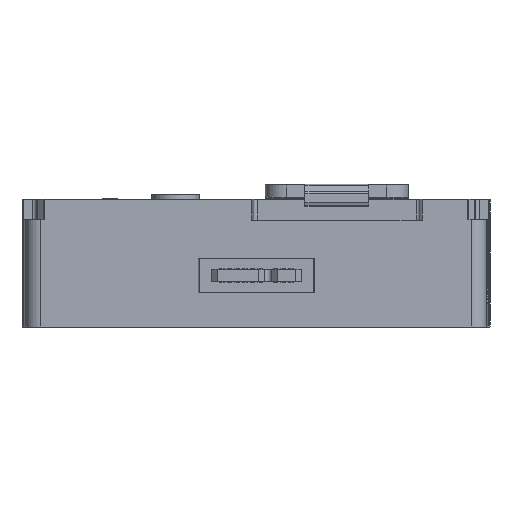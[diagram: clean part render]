
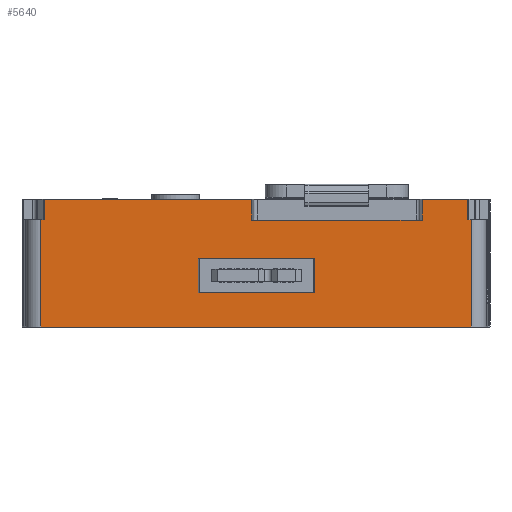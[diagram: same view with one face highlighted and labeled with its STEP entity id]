
A CAD part, left-side view. The second image highlights one B-rep face of the part: STEP entity #5640.
In plain terms, the highlighted planar face has unit normal (-1, 0, 0).
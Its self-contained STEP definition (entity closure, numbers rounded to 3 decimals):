
#1828=PLANE('',#13093);
#2944=B_SPLINE_CURVE_WITH_KNOTS('',3,(#16085,#16086,#16087,#16088,#16089,
#16090,#16091,#16092),.UNSPECIFIED.,.F.,.F.,(4,2,2,4),(0.,0.632,
0.97,1.),.UNSPECIFIED.);
#2965=B_SPLINE_CURVE_WITH_KNOTS('',3,(#16237,#16238,#16239,#16240,#16241,
#16242,#16243,#16244),.UNSPECIFIED.,.F.,.F.,(4,2,2,4),(0.,0.632,
0.97,1.),.UNSPECIFIED.);
#2969=B_SPLINE_CURVE_WITH_KNOTS('',3,(#16275,#16276,#16277,#16278,#16279,
#16280,#16281,#16282),.UNSPECIFIED.,.F.,.F.,(4,2,2,4),(0.,0.632,
0.97,1.),.UNSPECIFIED.);
#2970=B_SPLINE_CURVE_WITH_KNOTS('',3,(#16294,#16295,#16296,#16297),
 .UNSPECIFIED.,.F.,.F.,(4,4),(0.,1.),.UNSPECIFIED.);
#2971=B_SPLINE_CURVE_WITH_KNOTS('',3,(#16302,#16303,#16304,#16305),
 .UNSPECIFIED.,.F.,.F.,(4,4),(0.,1.),.UNSPECIFIED.);
#3613=LINE('',#16269,#4575);
#3614=LINE('',#16271,#4576);
#3615=LINE('',#16273,#4577);
#3616=LINE('',#16284,#4578);
#3617=LINE('',#16286,#4579);
#3618=LINE('',#16288,#4580);
#3619=LINE('',#16289,#4581);
#3620=LINE('',#16291,#4582);
#3621=LINE('',#16293,#4583);
#3622=LINE('',#16300,#4584);
#3623=LINE('',#16307,#4585);
#4575=VECTOR('',#13684,1.);
#4576=VECTOR('',#13685,1.);
#4577=VECTOR('',#13686,1.);
#4578=VECTOR('',#13687,1.);
#4579=VECTOR('',#13688,1.);
#4580=VECTOR('',#13689,1.);
#4581=VECTOR('',#13690,1.);
#4582=VECTOR('',#13691,1.);
#4583=VECTOR('',#13692,1.);
#4584=VECTOR('',#13693,1.);
#4585=VECTOR('',#13694,1.);
#5640=ADVANCED_FACE('',(#6320,#6321),#1828,.F.);
#6320=FACE_BOUND('',#6427,.T.);
#6321=FACE_BOUND('',#6428,.T.);
#6427=EDGE_LOOP('',(#7184,#7185,#7186,#7187,#7188,#7189,#7190,#7191,#7192,
#7193,#7194,#7195));
#6428=EDGE_LOOP('',(#7196,#7197,#7198,#7199));
#7184=ORIENTED_EDGE('',*,*,#11478,.F.);
#7185=ORIENTED_EDGE('',*,*,#11484,.T.);
#7186=ORIENTED_EDGE('',*,*,#11485,.T.);
#7187=ORIENTED_EDGE('',*,*,#11486,.T.);
#7188=ORIENTED_EDGE('',*,*,#11487,.T.);
#7189=ORIENTED_EDGE('',*,*,#11488,.T.);
#7190=ORIENTED_EDGE('',*,*,#11489,.T.);
#7191=ORIENTED_EDGE('',*,*,#11490,.T.);
#7192=ORIENTED_EDGE('',*,*,#11451,.F.);
#7193=ORIENTED_EDGE('',*,*,#11491,.F.);
#7194=ORIENTED_EDGE('',*,*,#11492,.F.);
#7195=ORIENTED_EDGE('',*,*,#11493,.T.);
#7196=ORIENTED_EDGE('',*,*,#11494,.F.);
#7197=ORIENTED_EDGE('',*,*,#11495,.F.);
#7198=ORIENTED_EDGE('',*,*,#11496,.T.);
#7199=ORIENTED_EDGE('',*,*,#11497,.T.);
#10372=VERTEX_POINT('',#16084);
#10373=VERTEX_POINT('',#16093);
#10399=VERTEX_POINT('',#16236);
#10400=VERTEX_POINT('',#16245);
#10405=VERTEX_POINT('',#16270);
#10406=VERTEX_POINT('',#16272);
#10407=VERTEX_POINT('',#16274);
#10408=VERTEX_POINT('',#16283);
#10409=VERTEX_POINT('',#16285);
#10410=VERTEX_POINT('',#16287);
#10411=VERTEX_POINT('',#16290);
#10412=VERTEX_POINT('',#16292);
#10413=VERTEX_POINT('',#16298);
#10414=VERTEX_POINT('',#16299);
#10415=VERTEX_POINT('',#16301);
#10416=VERTEX_POINT('',#16306);
#11451=EDGE_CURVE('',#10372,#10373,#2944,.T.);
#11478=EDGE_CURVE('',#10399,#10400,#2965,.T.);
#11484=EDGE_CURVE('',#10399,#10405,#3613,.T.);
#11485=EDGE_CURVE('',#10405,#10406,#3614,.T.);
#11486=EDGE_CURVE('',#10406,#10407,#3615,.T.);
#11487=EDGE_CURVE('',#10407,#10408,#2969,.T.);
#11488=EDGE_CURVE('',#10408,#10409,#3616,.T.);
#11489=EDGE_CURVE('',#10409,#10410,#3617,.T.);
#11490=EDGE_CURVE('',#10410,#10373,#3618,.T.);
#11491=EDGE_CURVE('',#10411,#10372,#3619,.T.);
#11492=EDGE_CURVE('',#10412,#10411,#3620,.T.);
#11493=EDGE_CURVE('',#10412,#10400,#3621,.T.);
#11494=EDGE_CURVE('',#10413,#10414,#2970,.T.);
#11495=EDGE_CURVE('',#10415,#10413,#3622,.T.);
#11496=EDGE_CURVE('',#10415,#10416,#2971,.T.);
#11497=EDGE_CURVE('',#10416,#10414,#3623,.T.);
#13093=AXIS2_PLACEMENT_3D('',#16308,#13695,#13696);
#13684=DIRECTION('',(0.,0.,-1.));
#13685=DIRECTION('',(0.,1.,0.));
#13686=DIRECTION('',(0.,0.,-1.));
#13687=DIRECTION('',(0.,0.,1.));
#13688=DIRECTION('',(0.,1.,0.));
#13689=DIRECTION('',(0.,0.,1.));
#13690=DIRECTION('',(0.,0.,1.));
#13691=DIRECTION('',(0.,-1.,0.));
#13692=DIRECTION('',(0.,0.,1.));
#13693=DIRECTION('',(0.,0.,1.));
#13694=DIRECTION('',(0.,0.,1.));
#13695=DIRECTION('',(1.,0.,0.));
#13696=DIRECTION('',(0.,1.,0.));
#16084=CARTESIAN_POINT('',(14.,8.849,16.637));
#16085=CARTESIAN_POINT('',(14.,60.485,16.637));
#16086=CARTESIAN_POINT('',(14.,47.853,16.637));
#16087=CARTESIAN_POINT('',(14.,35.22,16.637));
#16088=CARTESIAN_POINT('',(14.,15.814,16.637));
#16089=CARTESIAN_POINT('',(14.,9.04,16.637));
#16090=CARTESIAN_POINT('',(14.,1.671,16.637));
#16091=CARTESIAN_POINT('',(14.,1.075,16.637));
#16092=CARTESIAN_POINT('',(14.,0.479,16.637));
#16093=CARTESIAN_POINT('',(14.,2.882,16.637));
#16236=CARTESIAN_POINT('',(14.,58.082,16.637));
#16237=CARTESIAN_POINT('',(14.,60.485,16.637));
#16238=CARTESIAN_POINT('',(14.,47.853,16.637));
#16239=CARTESIAN_POINT('',(14.,35.22,16.637));
#16240=CARTESIAN_POINT('',(14.,15.814,16.637));
#16241=CARTESIAN_POINT('',(14.,9.04,16.637));
#16242=CARTESIAN_POINT('',(14.,1.671,16.637));
#16243=CARTESIAN_POINT('',(14.,1.075,16.637));
#16244=CARTESIAN_POINT('',(14.,0.479,16.637));
#16245=CARTESIAN_POINT('',(14.,31.065,16.637));
#16269=CARTESIAN_POINT('',(14.,58.082,16.637));
#16270=CARTESIAN_POINT('',(14.,58.082,13.998));
#16271=CARTESIAN_POINT('',(14.,60.485,13.998));
#16272=CARTESIAN_POINT('',(14.,58.503,13.998));
#16273=CARTESIAN_POINT('',(14.,58.503,16.637));
#16274=CARTESIAN_POINT('',(14.,58.503,0.));
#16275=CARTESIAN_POINT('',(14.,60.485,0.));
#16276=CARTESIAN_POINT('',(14.,47.853,0.));
#16277=CARTESIAN_POINT('',(14.,35.22,0.));
#16278=CARTESIAN_POINT('',(14.,15.814,0.));
#16279=CARTESIAN_POINT('',(14.,9.04,0.));
#16280=CARTESIAN_POINT('',(14.,1.671,0.));
#16281=CARTESIAN_POINT('',(14.,1.075,0.));
#16282=CARTESIAN_POINT('',(14.,0.479,0.));
#16283=CARTESIAN_POINT('',(14.,2.462,0.));
#16284=CARTESIAN_POINT('',(14.,2.462,16.637));
#16285=CARTESIAN_POINT('',(14.,2.462,13.998));
#16286=CARTESIAN_POINT('',(14.,60.485,13.998));
#16287=CARTESIAN_POINT('',(14.,2.882,13.998));
#16288=CARTESIAN_POINT('',(14.,2.882,16.637));
#16289=CARTESIAN_POINT('',(14.,8.849,13.906));
#16290=CARTESIAN_POINT('',(14.,8.849,13.906));
#16291=CARTESIAN_POINT('',(14.,31.065,13.906));
#16292=CARTESIAN_POINT('',(14.,31.065,13.906));
#16293=CARTESIAN_POINT('',(14.,31.065,13.906));
#16294=CARTESIAN_POINT('',(14.,22.882,8.909));
#16295=CARTESIAN_POINT('',(14.,27.915,8.909));
#16296=CARTESIAN_POINT('',(14.,32.947,8.909));
#16297=CARTESIAN_POINT('',(14.,37.979,8.909));
#16298=CARTESIAN_POINT('',(14.,22.882,8.909));
#16299=CARTESIAN_POINT('',(14.,37.979,8.909));
#16300=CARTESIAN_POINT('',(14.,22.882,4.448));
#16301=CARTESIAN_POINT('',(14.,22.882,4.448));
#16302=CARTESIAN_POINT('',(14.,22.882,4.448));
#16303=CARTESIAN_POINT('',(14.,27.915,4.448));
#16304=CARTESIAN_POINT('',(14.,32.947,4.448));
#16305=CARTESIAN_POINT('',(14.,37.979,4.448));
#16306=CARTESIAN_POINT('',(14.,37.979,4.448));
#16307=CARTESIAN_POINT('',(14.,37.979,4.448));
#16308=CARTESIAN_POINT('',(14.,60.485,16.637));
